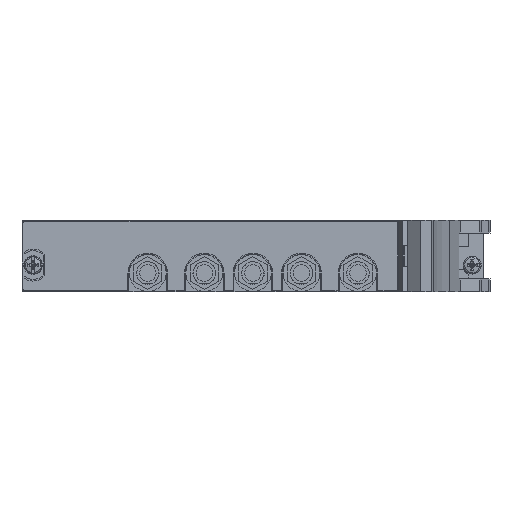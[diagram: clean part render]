
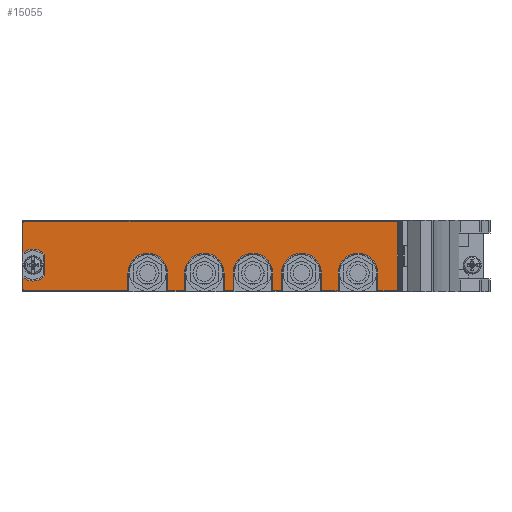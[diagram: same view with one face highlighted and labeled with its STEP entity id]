
A CAD part, left-side view. The second image highlights one B-rep face of the part: STEP entity #15055.
In plain terms, the highlighted planar face has unit normal (-1, 0, 0).
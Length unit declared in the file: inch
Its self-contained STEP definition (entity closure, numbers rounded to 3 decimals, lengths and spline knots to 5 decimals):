
#4949=DIRECTION('',(0.,0.,1.));
#4950=VECTOR('',#4949,0.197);
#4951=CARTESIAN_POINT('',(-0.215,-3.34126,-0.082));
#4952=LINE('',#4951,#4950);
#4953=CARTESIAN_POINT('',(-0.215,-3.12426,0.115));
#4954=DIRECTION('',(-1.,0.,0.));
#4955=DIRECTION('',(0.,-1.,0.));
#4956=AXIS2_PLACEMENT_3D('',#4953,#4954,#4955);
#4958=DIRECTION('',(0.,0.,1.));
#4959=VECTOR('',#4958,0.197);
#4960=CARTESIAN_POINT('',(-0.215,-2.90726,-0.082));
#4961=LINE('',#4960,#4959);
#4962=DIRECTION('',(0.,-1.,0.));
#4963=VECTOR('',#4962,0.186);
#4964=CARTESIAN_POINT('',(-0.215,-2.72126,-0.082));
#4965=LINE('',#4964,#4963);
#4966=DIRECTION('',(0.,0.,1.));
#4967=VECTOR('',#4966,0.197);
#4968=CARTESIAN_POINT('',(-0.215,-2.72126,-0.082));
#4969=LINE('',#4968,#4967);
#4970=CARTESIAN_POINT('',(-0.215,-2.50426,0.115));
#4971=DIRECTION('',(-1.,0.,0.));
#4972=DIRECTION('',(0.,-1.,0.));
#4973=AXIS2_PLACEMENT_3D('',#4970,#4971,#4972);
#4975=DIRECTION('',(0.,0.,1.));
#4976=VECTOR('',#4975,0.197);
#4977=CARTESIAN_POINT('',(-0.215,-2.28726,-0.082));
#4978=LINE('',#4977,#4976);
#4979=DIRECTION('',(0.,-1.,0.));
#4980=VECTOR('',#4979,0.099);
#4981=CARTESIAN_POINT('',(-0.215,-2.18826,-0.082));
#4982=LINE('',#4981,#4980);
#4983=DIRECTION('',(0.,0.,1.));
#4984=VECTOR('',#4983,0.197);
#4985=CARTESIAN_POINT('',(-0.215,-2.18826,-0.082));
#4986=LINE('',#4985,#4984);
#4987=CARTESIAN_POINT('',(-0.215,-1.97126,0.115));
#4988=DIRECTION('',(-1.,0.,0.));
#4989=DIRECTION('',(0.,-1.,0.));
#4990=AXIS2_PLACEMENT_3D('',#4987,#4988,#4989);
#4992=DIRECTION('',(0.,0.,1.));
#4993=VECTOR('',#4992,0.197);
#4994=CARTESIAN_POINT('',(-0.215,-1.75426,-0.082));
#4995=LINE('',#4994,#4993);
#4996=DIRECTION('',(0.,-1.,0.));
#4997=VECTOR('',#4996,0.099);
#4998=CARTESIAN_POINT('',(-0.215,-1.65526,-0.082));
#4999=LINE('',#4998,#4997);
#5000=DIRECTION('',(0.,0.,1.));
#5001=VECTOR('',#5000,0.197);
#5002=CARTESIAN_POINT('',(-0.215,-1.65526,-0.082));
#5003=LINE('',#5002,#5001);
#5004=CARTESIAN_POINT('',(-0.215,-1.43826,0.115));
#5005=DIRECTION('',(-1.,0.,0.));
#5006=DIRECTION('',(0.,-1.,0.));
#5007=AXIS2_PLACEMENT_3D('',#5004,#5005,#5006);
#5009=DIRECTION('',(0.,0.,1.));
#5010=VECTOR('',#5009,0.197);
#5011=CARTESIAN_POINT('',(-0.215,-1.22126,-0.082));
#5012=LINE('',#5011,#5010);
#5013=DIRECTION('',(0.,-1.,0.));
#5014=VECTOR('',#5013,0.186);
#5015=CARTESIAN_POINT('',(-0.215,-1.03526,-0.082));
#5016=LINE('',#5015,#5014);
#5017=DIRECTION('',(0.,0.,1.));
#5018=VECTOR('',#5017,0.197);
#5019=CARTESIAN_POINT('',(-0.215,-1.03526,-0.082));
#5020=LINE('',#5019,#5018);
#5021=CARTESIAN_POINT('',(-0.215,-0.81826,0.115));
#5022=DIRECTION('',(-1.,0.,0.));
#5023=DIRECTION('',(0.,-1.,0.));
#5024=AXIS2_PLACEMENT_3D('',#5021,#5022,#5023);
#5026=DIRECTION('',(0.,0.,1.));
#5027=VECTOR('',#5026,0.197);
#5028=CARTESIAN_POINT('',(-0.215,-0.60126,-0.082));
#5029=LINE('',#5028,#5027);
#5030=DIRECTION('',(0.,-1.,0.));
#5031=VECTOR('',#5030,1.133);
#5032=CARTESIAN_POINT('',(-0.215,0.53174,-0.082));
#5033=LINE('',#5032,#5031);
#5034=CARTESIAN_POINT('',(-0.215,0.53174,-0.062));
#5035=DIRECTION('',(-1.,0.,0.));
#5036=DIRECTION('',(0.,1.,0.));
#5037=AXIS2_PLACEMENT_3D('',#5034,#5035,#5036);
#5039=DIRECTION('',(0.,0.,-1.));
#5040=VECTOR('',#5039,0.12953);
#5041=CARTESIAN_POINT('',(-0.215,0.55174,0.06753));
#5042=LINE('',#5041,#5040);
#5043=CARTESIAN_POINT('',(-0.215,0.43974,0.202));
#5044=DIRECTION('',(1.,0.,0.));
#5045=DIRECTION('',(0.,-0.737,-0.676));
#5046=AXIS2_PLACEMENT_3D('',#5043,#5044,#5045);
#5048=DIRECTION('',(0.,0.,-1.));
#5049=VECTOR('',#5048,0.23651);
#5050=CARTESIAN_POINT('',(-0.215,0.31074,0.32025));
#5051=LINE('',#5050,#5049);
#5052=CARTESIAN_POINT('',(-0.215,0.43974,0.202));
#5053=DIRECTION('',(1.,0.,0.));
#5054=DIRECTION('',(0.,0.64,0.768));
#5055=AXIS2_PLACEMENT_3D('',#5052,#5053,#5054);
#5057=DIRECTION('',(0.,0.,-1.));
#5058=VECTOR('',#5057,0.32953);
#5059=CARTESIAN_POINT('',(-0.215,0.55174,0.666));
#5060=LINE('',#5059,#5058);
#5061=CARTESIAN_POINT('',(-0.215,0.53174,0.666));
#5062=DIRECTION('',(-1.,0.,0.));
#5063=DIRECTION('',(0.,0.,1.));
#5064=AXIS2_PLACEMENT_3D('',#5061,#5062,#5063);
#5066=DIRECTION('',(0.,1.,0.));
#5067=VECTOR('',#5066,4.07);
#5068=CARTESIAN_POINT('',(-0.215,-3.53826,0.686));
#5069=LINE('',#5068,#5067);
#5070=CARTESIAN_POINT('',(-0.215,-3.53826,0.666));
#5071=DIRECTION('',(-1.,0.,0.));
#5072=DIRECTION('',(0.,-1.,0.));
#5073=AXIS2_PLACEMENT_3D('',#5070,#5071,#5072);
#5075=DIRECTION('',(0.,0.,1.));
#5076=VECTOR('',#5075,0.728);
#5077=CARTESIAN_POINT('',(-0.215,-3.55826,-0.062));
#5078=LINE('',#5077,#5076);
#5079=CARTESIAN_POINT('',(-0.215,-3.53826,-0.062));
#5080=DIRECTION('',(-1.,0.,0.));
#5081=DIRECTION('',(0.,0.,-1.));
#5082=AXIS2_PLACEMENT_3D('',#5079,#5080,#5081);
#5084=DIRECTION('',(0.,-1.,0.));
#5085=VECTOR('',#5084,0.197);
#5086=CARTESIAN_POINT('',(-0.215,-3.34126,-0.082));
#5087=LINE('',#5086,#5085);
#6350=CARTESIAN_POINT('',(-0.215,0.53174,0.686));
#6351=CARTESIAN_POINT('',(-0.215,0.55174,0.666));
#6352=VERTEX_POINT('',#6350);
#6353=VERTEX_POINT('',#6351);
#6354=CARTESIAN_POINT('',(-0.215,0.55174,0.33647));
#6355=VERTEX_POINT('',#6354);
#6356=CARTESIAN_POINT('',(-0.215,0.31074,0.32025));
#6357=VERTEX_POINT('',#6356);
#6358=CARTESIAN_POINT('',(-0.215,0.31074,0.08375));
#6359=VERTEX_POINT('',#6358);
#6360=CARTESIAN_POINT('',(-0.215,0.55174,0.06753));
#6361=VERTEX_POINT('',#6360);
#6362=CARTESIAN_POINT('',(-0.215,0.55174,-0.062));
#6363=VERTEX_POINT('',#6362);
#6364=CARTESIAN_POINT('',(-0.215,0.53174,-0.082));
#6365=VERTEX_POINT('',#6364);
#6366=CARTESIAN_POINT('',(-0.215,-3.53826,-0.082));
#6367=CARTESIAN_POINT('',(-0.215,-3.55826,-0.062));
#6368=VERTEX_POINT('',#6366);
#6369=VERTEX_POINT('',#6367);
#6370=CARTESIAN_POINT('',(-0.215,-3.55826,0.666));
#6371=VERTEX_POINT('',#6370);
#6372=CARTESIAN_POINT('',(-0.215,-3.53826,0.686));
#6373=VERTEX_POINT('',#6372);
#6374=CARTESIAN_POINT('',(-0.215,-3.34126,-0.082));
#6375=CARTESIAN_POINT('',(-0.215,-3.34126,0.115));
#6376=VERTEX_POINT('',#6374);
#6377=VERTEX_POINT('',#6375);
#6378=CARTESIAN_POINT('',(-0.215,-2.90726,0.115));
#6379=VERTEX_POINT('',#6378);
#6380=CARTESIAN_POINT('',(-0.215,-2.90726,-0.082));
#6381=VERTEX_POINT('',#6380);
#6382=CARTESIAN_POINT('',(-0.215,-2.72126,-0.082));
#6383=CARTESIAN_POINT('',(-0.215,-2.72126,0.115));
#6384=VERTEX_POINT('',#6382);
#6385=VERTEX_POINT('',#6383);
#6386=CARTESIAN_POINT('',(-0.215,-2.28726,0.115));
#6387=VERTEX_POINT('',#6386);
#6388=CARTESIAN_POINT('',(-0.215,-2.28726,-0.082));
#6389=VERTEX_POINT('',#6388);
#6390=CARTESIAN_POINT('',(-0.215,-2.18826,-0.082));
#6391=CARTESIAN_POINT('',(-0.215,-2.18826,0.115));
#6392=VERTEX_POINT('',#6390);
#6393=VERTEX_POINT('',#6391);
#6394=CARTESIAN_POINT('',(-0.215,-1.75426,0.115));
#6395=VERTEX_POINT('',#6394);
#6396=CARTESIAN_POINT('',(-0.215,-1.75426,-0.082));
#6397=VERTEX_POINT('',#6396);
#6398=CARTESIAN_POINT('',(-0.215,-1.65526,-0.082));
#6399=CARTESIAN_POINT('',(-0.215,-1.65526,0.115));
#6400=VERTEX_POINT('',#6398);
#6401=VERTEX_POINT('',#6399);
#6402=CARTESIAN_POINT('',(-0.215,-1.22126,0.115));
#6403=VERTEX_POINT('',#6402);
#6404=CARTESIAN_POINT('',(-0.215,-1.22126,-0.082));
#6405=VERTEX_POINT('',#6404);
#6406=CARTESIAN_POINT('',(-0.215,-1.03526,-0.082));
#6407=CARTESIAN_POINT('',(-0.215,-1.03526,0.115));
#6408=VERTEX_POINT('',#6406);
#6409=VERTEX_POINT('',#6407);
#6410=CARTESIAN_POINT('',(-0.215,-0.60126,0.115));
#6411=VERTEX_POINT('',#6410);
#6412=CARTESIAN_POINT('',(-0.215,-0.60126,-0.082));
#6413=VERTEX_POINT('',#6412);
#15016=CARTESIAN_POINT('',(-0.215,0.43974,0.202));
#15017=DIRECTION('',(-1.,0.,0.));
#15018=DIRECTION('',(0.,0.,1.));
#15019=AXIS2_PLACEMENT_3D('',#15016,#15017,#15018);
#15020=PLANE('',#15019);
#15021=ORIENTED_EDGE('',*,*,#14661,.T.);
#15022=ORIENTED_EDGE('',*,*,#14675,.T.);
#15023=ORIENTED_EDGE('',*,*,#14689,.F.);
#15024=ORIENTED_EDGE('',*,*,#14703,.F.);
#15025=ORIENTED_EDGE('',*,*,#14717,.T.);
#15026=ORIENTED_EDGE('',*,*,#14731,.T.);
#15027=ORIENTED_EDGE('',*,*,#14745,.F.);
#15028=ORIENTED_EDGE('',*,*,#14759,.F.);
#15029=ORIENTED_EDGE('',*,*,#14773,.T.);
#15030=ORIENTED_EDGE('',*,*,#14787,.T.);
#15031=ORIENTED_EDGE('',*,*,#14801,.F.);
#15032=ORIENTED_EDGE('',*,*,#14815,.F.);
#15033=ORIENTED_EDGE('',*,*,#14829,.T.);
#15034=ORIENTED_EDGE('',*,*,#14843,.T.);
#15035=ORIENTED_EDGE('',*,*,#14857,.F.);
#15036=ORIENTED_EDGE('',*,*,#14871,.F.);
#15037=ORIENTED_EDGE('',*,*,#14885,.T.);
#15038=ORIENTED_EDGE('',*,*,#14899,.T.);
#15039=ORIENTED_EDGE('',*,*,#14913,.F.);
#15040=ORIENTED_EDGE('',*,*,#14927,.F.);
#15041=ORIENTED_EDGE('',*,*,#14941,.F.);
#15042=ORIENTED_EDGE('',*,*,#14955,.F.);
#15043=ORIENTED_EDGE('',*,*,#14969,.F.);
#15044=ORIENTED_EDGE('',*,*,#14983,.F.);
#15045=ORIENTED_EDGE('',*,*,#14997,.F.);
#15046=ORIENTED_EDGE('',*,*,#15010,.F.);
#15047=ORIENTED_EDGE('',*,*,#14576,.F.);
#15048=ORIENTED_EDGE('',*,*,#14591,.F.);
#15049=ORIENTED_EDGE('',*,*,#14605,.F.);
#15050=ORIENTED_EDGE('',*,*,#14619,.F.);
#15051=ORIENTED_EDGE('',*,*,#14633,.F.);
#15052=ORIENTED_EDGE('',*,*,#14647,.F.);
#15053=EDGE_LOOP('',(#15021,#15022,#15023,#15024,#15025,#15026,#15027,#15028,
#15029,#15030,#15031,#15032,#15033,#15034,#15035,#15036,#15037,#15038,#15039,
#15040,#15041,#15042,#15043,#15044,#15045,#15046,#15047,#15048,#15049,#15050,
#15051,#15052));
#15054=FACE_OUTER_BOUND('',#15053,.F.);
#15055=ADVANCED_FACE('',(#15054),#15020,.T.);
#4957=CIRCLE('',#4956,0.217);
#4974=CIRCLE('',#4973,0.217);
#4991=CIRCLE('',#4990,0.217);
#5008=CIRCLE('',#5007,0.217);
#5025=CIRCLE('',#5024,0.217);
#5038=CIRCLE('',#5037,0.02);
#5047=CIRCLE('',#5046,0.175);
#5056=CIRCLE('',#5055,0.175);
#5065=CIRCLE('',#5064,0.02);
#5074=CIRCLE('',#5073,0.02);
#5083=CIRCLE('',#5082,0.02);
#14576=EDGE_CURVE('',#6352,#6353,#5065,.T.);
#14591=EDGE_CURVE('',#6373,#6352,#5069,.T.);
#14605=EDGE_CURVE('',#6371,#6373,#5074,.T.);
#14619=EDGE_CURVE('',#6369,#6371,#5078,.T.);
#14633=EDGE_CURVE('',#6368,#6369,#5083,.T.);
#14647=EDGE_CURVE('',#6376,#6368,#5087,.T.);
#14661=EDGE_CURVE('',#6376,#6377,#4952,.T.);
#14675=EDGE_CURVE('',#6377,#6379,#4957,.T.);
#14689=EDGE_CURVE('',#6381,#6379,#4961,.T.);
#14703=EDGE_CURVE('',#6384,#6381,#4965,.T.);
#14717=EDGE_CURVE('',#6384,#6385,#4969,.T.);
#14731=EDGE_CURVE('',#6385,#6387,#4974,.T.);
#14745=EDGE_CURVE('',#6389,#6387,#4978,.T.);
#14759=EDGE_CURVE('',#6392,#6389,#4982,.T.);
#14773=EDGE_CURVE('',#6392,#6393,#4986,.T.);
#14787=EDGE_CURVE('',#6393,#6395,#4991,.T.);
#14801=EDGE_CURVE('',#6397,#6395,#4995,.T.);
#14815=EDGE_CURVE('',#6400,#6397,#4999,.T.);
#14829=EDGE_CURVE('',#6400,#6401,#5003,.T.);
#14843=EDGE_CURVE('',#6401,#6403,#5008,.T.);
#14857=EDGE_CURVE('',#6405,#6403,#5012,.T.);
#14871=EDGE_CURVE('',#6408,#6405,#5016,.T.);
#14885=EDGE_CURVE('',#6408,#6409,#5020,.T.);
#14899=EDGE_CURVE('',#6409,#6411,#5025,.T.);
#14913=EDGE_CURVE('',#6413,#6411,#5029,.T.);
#14927=EDGE_CURVE('',#6365,#6413,#5033,.T.);
#14941=EDGE_CURVE('',#6363,#6365,#5038,.T.);
#14955=EDGE_CURVE('',#6361,#6363,#5042,.T.);
#14969=EDGE_CURVE('',#6359,#6361,#5047,.T.);
#14983=EDGE_CURVE('',#6357,#6359,#5051,.T.);
#14997=EDGE_CURVE('',#6355,#6357,#5056,.T.);
#15010=EDGE_CURVE('',#6353,#6355,#5060,.T.);
